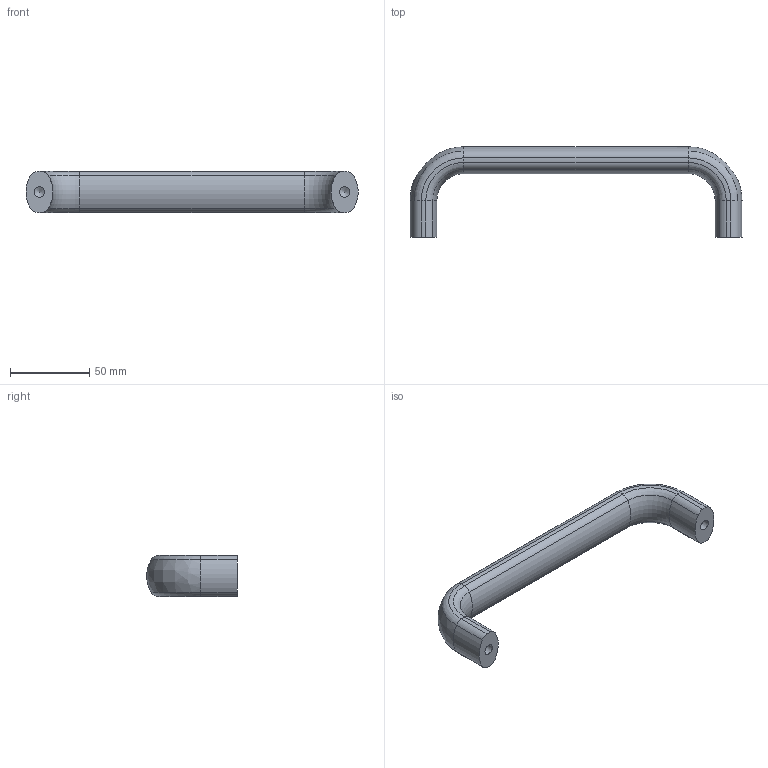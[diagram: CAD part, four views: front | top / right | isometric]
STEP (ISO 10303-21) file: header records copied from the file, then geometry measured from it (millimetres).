
FILE_DESCRIPTION( ( 'STEP AP203' ), '1' );
FILE_NAME( 'C:/Temp/Ganter_Step_05_03_2020/data/1_2/gn_565/Cabinet ''''U'''' handle GN 565-26-192-WSA.stp', '2020-03-05T10:09:11', ( 'License CC BY-ND 4.0' ), ( 'CADENAS' ), ' ', 'PARTsolutions', ' ' );
FILE_SCHEMA( ( 'CONFIG_CONTROL_DESIGN' ) );
Length unit declared in the file: millimetre
Products named in the file (1): _Cabinet ''U'' handle GN 565-26-192-WSA
Bounding box: 208.88 x 56.99 x 25.99 mm (x, y, z)
Volume: 94248.9 mm3; surface area: 19859.1 mm2
Topology: 1 solids, 1 shells, 52 faces, 130 edges, 80 vertices
Faces by surface type: cylinder 26, torus 14, plane 8, cone 2, bspline 2
Full cylindrical faces by diameter (mm): 6.647 x2
Entity records: 1648 total; most frequent: CARTESIAN_POINT 341, DIRECTION 302, ORIENTED_EDGE 248, AXIS2_PLACEMENT_3D 139, EDGE_CURVE 124, CIRCLE 88, VERTEX_POINT 80, EDGE_LOOP 56
